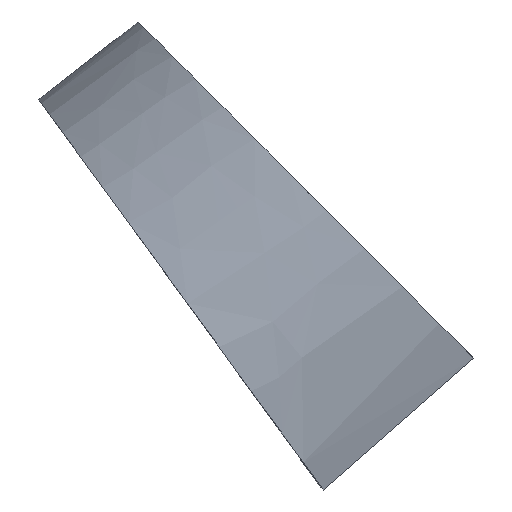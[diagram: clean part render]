
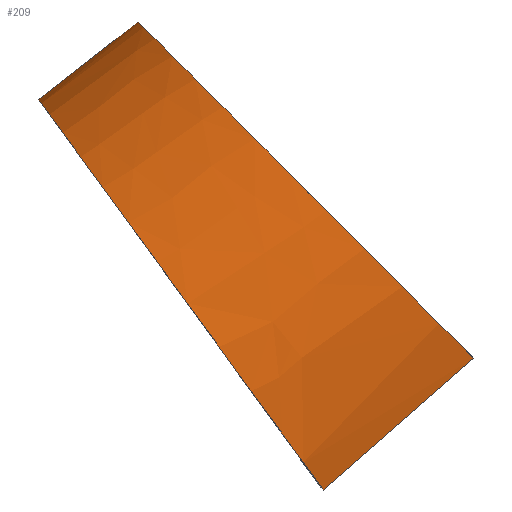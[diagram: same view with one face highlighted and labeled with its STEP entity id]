
A CAD part, top view. The second image highlights one B-rep face of the part: STEP entity #209.
In plain terms, the highlighted free-form (B-spline) face has degree [3, 3] with [13, 4] control points.
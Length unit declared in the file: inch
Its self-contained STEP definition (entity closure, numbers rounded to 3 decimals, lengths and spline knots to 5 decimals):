
#4 = CARTESIAN_POINT ( 'NONE',  ( 82.79157, -102.21553, 32.92859 ) ) ;
#6 = CARTESIAN_POINT ( 'NONE',  ( 60.81366, -60.68437, 0.12779 ) ) ;
#11 = CARTESIAN_POINT ( 'NONE',  ( 63.43274, -87.2981, 33.0738 ) ) ;
#16 = CARTESIAN_POINT ( 'NONE',  ( 50.12467, -69.0352, 0.12776 ) ) ;
#29 = CARTESIAN_POINT ( 'NONE',  ( 61.94807, -61.82351, 11.94191 ) ) ;
#31 = CARTESIAN_POINT ( 'NONE',  ( 80.70353, -110.99372, 30.10248 ) ) ;
#33 = CARTESIAN_POINT ( 'NONE',  ( 60.81366, -60.68437, 0.12779 ) ) ;
#35 = CARTESIAN_POINT ( 'NONE',  ( 64.50548, -79.62099, 29.86824 ) ) ;
#37 = CARTESIAN_POINT ( 'NONE',  ( 57.24375, -78.80551, 27.0067 ) ) ;
#39 = CARTESIAN_POINT ( 'NONE',  ( 57.26556, -63.48456, 6.12464 ) ) ;
#42 = CARTESIAN_POINT ( 'NONE',  ( 53.70169, -66.26891, 6.15968 ) ) ;
#43 = CARTESIAN_POINT ( 'NONE',  ( 76.48364, -76.41753, 32.50608 ) ) ;
#45 = CARTESIAN_POINT ( 'NONE',  ( 72.13336, -80.0444, 32.69533 ) ) ;
#47 = CARTESIAN_POINT ( 'NONE',  ( 50.12467, -69.0352, 0.12776 ) ) ;
#49 = CARTESIAN_POINT ( 'NONE',  ( 67.78305, -83.67126, 32.88457 ) ) ;
#52 = CARTESIAN_POINT ( 'NONE',  ( 96.82238, -96.83443, 29.58971 ) ) ;
#54 = CARTESIAN_POINT ( 'NONE',  ( 69.19617, -69.10113, 26.54227 ) ) ;
#58 = CARTESIAN_POINT ( 'NONE',  ( 80.61629, -80.56635, 34.08177 ) ) ;
#62 = CARTESIAN_POINT ( 'NONE',  ( 57.24375, -78.80551, 27.0067 ) ) ;
#65 = CARTESIAN_POINT ( 'NONE',  ( 60.33203, -66.90034, 17.19961 ) ) ;
#67 = CARTESIAN_POINT ( 'NONE',  ( 50.13783, -69.05326, 6.1947 ) ) ;
#70 = CARTESIAN_POINT ( 'NONE',  ( 58.50402, -72.20437, 22.51771 ) ) ;
#75 = CARTESIAN_POINT ( 'NONE',  ( 96.82238, -96.83443, 29.58971 ) ) ;
#76 = CARTESIAN_POINT ( 'NONE',  ( 76.05831, -84.41544, 34.27992 ) ) ;
#84 = CARTESIAN_POINT ( 'NONE',  ( 76.48364, -76.41753, 32.50608 ) ) ;
#88 = CARTESIAN_POINT ( 'NONE',  ( 60.81366, -60.68437, 0.12779 ) ) ;
#89 = CARTESIAN_POINT ( 'NONE',  ( 62.33606, -69.13259, 22.38784 ) ) ;
#90 = FACE_OUTER_BOUND ( 'NONE', #298, .T. ) ;
#92 = CARTESIAN_POINT ( 'NONE',  ( 77.60236, -106.73915, 33.11697 ) ) ;
#94 = VERTEX_POINT ( 'NONE', #88 ) ;
#96 = CARTESIAN_POINT ( 'NONE',  ( 53.68767, -66.25159, 0.12777 ) ) ;
#105 = CARTESIAN_POINT ( 'NONE',  ( 89.03267, -89.0152, 34.10485 ) ) ;
#110 = CARTESIAN_POINT ( 'NONE',  ( 52.87991, -72.81668, 17.39891 ) ) ;
#114 = ORIENTED_EDGE ( 'NONE', *, *, #192, .T. ) ;
#119 = CARTESIAN_POINT ( 'NONE',  ( 96.82238, -96.83443, 29.58971 ) ) ;
#124 = CARTESIAN_POINT ( 'NONE',  ( 93.16996, -93.16823, 32.55184 ) ) ;
#125 = VERTEX_POINT ( 'NONE', #119 ) ;
#126 = B_SPLINE_CURVE_WITH_KNOTS ( 'NONE', 3,
 ( #16, #67, #316, #174, #62, #11, #220, #312, #92, #275 ),
 .UNSPECIFIED., .F., .F.,
 ( 4, 2, 2, 2, 4 ),
 ( 0., 0.25, 0.5, 0.75, 1. ),
 .UNSPECIFIED. ) ;
#127 = CARTESIAN_POINT ( 'NONE',  ( 63.43274, -87.2981, 33.0738 ) ) ;
#129 = CARTESIAN_POINT ( 'NONE',  ( 86.07649, -106.27397, 29.93155 ) ) ;
#131 = CARTESIAN_POINT ( 'NONE',  ( 91.44944, -101.55421, 29.76063 ) ) ;
#136 = CARTESIAN_POINT ( 'NONE',  ( 53.68767, -66.25159, 0.12777 ) ) ;
#138 = ORIENTED_EDGE ( 'NONE', *, *, #186, .T. ) ;
#139 = CARTESIAN_POINT ( 'NONE',  ( 57.25066, -63.46798, 0.12778 ) ) ;
#141 = CARTESIAN_POINT ( 'NONE',  ( 51.08785, -70.35723, 12.15026 ) ) ;
#143 = CARTESIAN_POINT ( 'NONE',  ( 60.33824, -83.05181, 30.04025 ) ) ;
#153 = CARTESIAN_POINT ( 'NONE',  ( 77.60236, -106.73915, 33.11697 ) ) ;
#156 = CARTESIAN_POINT ( 'NONE',  ( 79.07042, -97.61801, 34.50025 ) ) ;
#158 = EDGE_CURVE ( 'NONE', #125, #94, #301, .T. ) ;
#163 = CARTESIAN_POINT ( 'NONE',  ( 66.16811, -66.0608, 22.25796 ) ) ;
#167 = CARTESIAN_POINT ( 'NONE',  ( 66.16811, -66.0608, 22.25796 ) ) ;
#170 = CARTESIAN_POINT ( 'NONE',  ( 56.60597, -69.85851, 17.29927 ) ) ;
#172 = CARTESIAN_POINT ( 'NONE',  ( 69.19617, -69.10113, 26.54227 ) ) ;
#174 = CARTESIAN_POINT ( 'NONE',  ( 54.67196, -75.27614, 22.64756 ) ) ;
#176 = CARTESIAN_POINT ( 'NONE',  ( 80.61629, -80.56635, 34.08177 ) ) ;
#181 = CARTESIAN_POINT ( 'NONE',  ( 80.05493, -88.86603, 34.29123 ) ) ;
#184 = CARTESIAN_POINT ( 'NONE',  ( 80.70353, -110.99372, 30.10248 ) ) ;
#185 = CARTESIAN_POINT ( 'NONE',  ( 89.03267, -89.0152, 34.10485 ) ) ;
#186 = EDGE_CURVE ( 'NONE', #94, #267, #259, .T. ) ;
#189 = CARTESIAN_POINT ( 'NONE',  ( 50.13783, -69.05326, 6.1947 ) ) ;
#191 = ORIENTED_EDGE ( 'NONE', *, *, #262, .T. ) ;
#192 = EDGE_CURVE ( 'NONE', #267, #300, #126, .T. ) ;
#193 = CARTESIAN_POINT ( 'NONE',  ( 60.82942, -60.70021, 6.08961 ) ) ;
#197 = CARTESIAN_POINT ( 'NONE',  ( 57.25066, -63.46798, 0.12778 ) ) ;
#201 = ORIENTED_EDGE ( 'NONE', *, *, #158, .T. ) ;
#206 = CARTESIAN_POINT ( 'NONE',  ( 87.98077, -97.69189, 32.74021 ) ) ;
#209 = ADVANCED_FACE ( 'NONE', ( #90 ), #307, .T. ) ;
#214 = CARTESIAN_POINT ( 'NONE',  ( 64.05809, -63.94216, 17.09994 ) ) ;
#220 = CARTESIAN_POINT ( 'NONE',  ( 66.94229, -92.11356, 34.67618 ) ) ;
#222 = CARTESIAN_POINT ( 'NONE',  ( 50.12467, -69.0352, 0.12776 ) ) ;
#225 = CARTESIAN_POINT ( 'NONE',  ( 50.12467, -69.0352, 0.12776 ) ) ;
#227 = CARTESIAN_POINT ( 'NONE',  ( 71.50031, -88.26451, 34.47805 ) ) ;
#229 = CARTESIAN_POINT ( 'NONE',  ( 91.44944, -101.55421, 29.76063 ) ) ;
#231 = CARTESIAN_POINT ( 'NONE',  ( 70.51579, -97.01648, 34.68707 ) ) ;
#233 = CARTESIAN_POINT ( 'NONE',  ( 84.05155, -93.31661, 34.30255 ) ) ;
#235 = CARTESIAN_POINT ( 'NONE',  ( 60.82942, -60.70021, 6.08961 ) ) ;
#236 = B_SPLINE_CURVE_WITH_KNOTS ( 'NONE', 3,
 ( #184, #246, #229, #276 ),
 .UNSPECIFIED., .F., .F.,
 ( 4, 4 ),
 ( 0., 1. ),
 .UNSPECIFIED. ) ;
#241 = CARTESIAN_POINT ( 'NONE',  ( 58.328, -64.66808, 12.01137 ) ) ;
#242 = CARTESIAN_POINT ( 'NONE',  ( 54.70792, -67.51266, 12.08082 ) ) ;
#246 = CARTESIAN_POINT ( 'NONE',  ( 86.07649, -106.27397, 29.93155 ) ) ;
#248 = CARTESIAN_POINT ( 'NONE',  ( 74.08928, -101.9194, 34.69795 ) ) ;
#256 = CARTESIAN_POINT ( 'NONE',  ( 66.94229, -92.11356, 34.67618 ) ) ;
#259 = B_SPLINE_CURVE_WITH_KNOTS ( 'NONE', 3,
 ( #294, #139, #136, #222 ),
 .UNSPECIFIED., .F., .F.,
 ( 4, 4 ),
 ( 0., 1. ),
 .UNSPECIFIED. ) ;
#262 = EDGE_CURVE ( 'NONE', #300, #125, #236, .T. ) ;
#265 = CARTESIAN_POINT ( 'NONE',  ( 61.94807, -61.82351, 11.94191 ) ) ;
#267 = VERTEX_POINT ( 'NONE', #47 ) ;
#268 = CARTESIAN_POINT ( 'NONE',  ( 61.2279, -75.57073, 26.85191 ) ) ;
#272 = CARTESIAN_POINT ( 'NONE',  ( 65.21204, -72.33594, 26.6971 ) ) ;
#275 = CARTESIAN_POINT ( 'NONE',  ( 80.70353, -110.99372, 30.10248 ) ) ;
#276 = CARTESIAN_POINT ( 'NONE',  ( 96.82238, -96.83443, 29.58971 ) ) ;
#277 = CARTESIAN_POINT ( 'NONE',  ( 93.16996, -93.16823, 32.55184 ) ) ;
#281 = CARTESIAN_POINT ( 'NONE',  ( 84.82448, -84.79077, 34.09331 ) ) ;
#294 = CARTESIAN_POINT ( 'NONE',  ( 60.81366, -60.68437, 0.12779 ) ) ;
#298 = EDGE_LOOP ( 'NONE', ( #114, #191, #201, #138 ) ) ;
#300 = VERTEX_POINT ( 'NONE', #31 ) ;
#301 = B_SPLINE_CURVE_WITH_KNOTS ( 'NONE', 3,
 ( #75, #277, #185, #58, #84, #54, #163, #29, #235, #6 ),
 .UNSPECIFIED., .F., .F.,
 ( 4, 2, 2, 2, 4 ),
 ( 0., 0.25, 0.5, 0.75, 1. ),
 .UNSPECIFIED. ) ;
#302 = CARTESIAN_POINT ( 'NONE',  ( 80.70353, -110.99372, 30.10248 ) ) ;
#303 = CARTESIAN_POINT ( 'NONE',  ( 72.83991, -72.75933, 29.52418 ) ) ;
#307 = B_SPLINE_SURFACE_WITH_KNOTS ( 'NONE', 3, 3, ( 
 ( #225, #96, #197, #33 ),
 ( #189, #42, #39, #193 ),
 ( #141, #242, #241, #265 ),
 ( #110, #170, #65, #214 ),
 ( #310, #70, #89, #167 ),
 ( #37, #268, #272, #172 ),
 ( #143, #35, #321, #303 ),
 ( #127, #49, #45, #43 ),
 ( #256, #227, #76, #176 ),
 ( #231, #324, #181, #281 ),
 ( #248, #156, #233, #105 ),
 ( #153, #4, #206, #124 ),
 ( #302, #129, #131, #52 ) ),
 .UNSPECIFIED., .F., .F., .F.,
 ( 4, 3, 3, 3, 4 ),
 ( 4, 4 ),
 ( 0., 0.25, 0.5, 0.75, 1. ),
 ( 0., 1. ),
 .UNSPECIFIED. ) ;
#310 = CARTESIAN_POINT ( 'NONE',  ( 54.67196, -75.27614, 22.64756 ) ) ;
#312 = CARTESIAN_POINT ( 'NONE',  ( 74.08928, -101.9194, 34.69795 ) ) ;
#316 = CARTESIAN_POINT ( 'NONE',  ( 51.08785, -70.35723, 12.15026 ) ) ;
#321 = CARTESIAN_POINT ( 'NONE',  ( 68.6727, -76.19017, 29.69622 ) ) ;
#324 = CARTESIAN_POINT ( 'NONE',  ( 75.28536, -92.94126, 34.48915 ) ) ;
